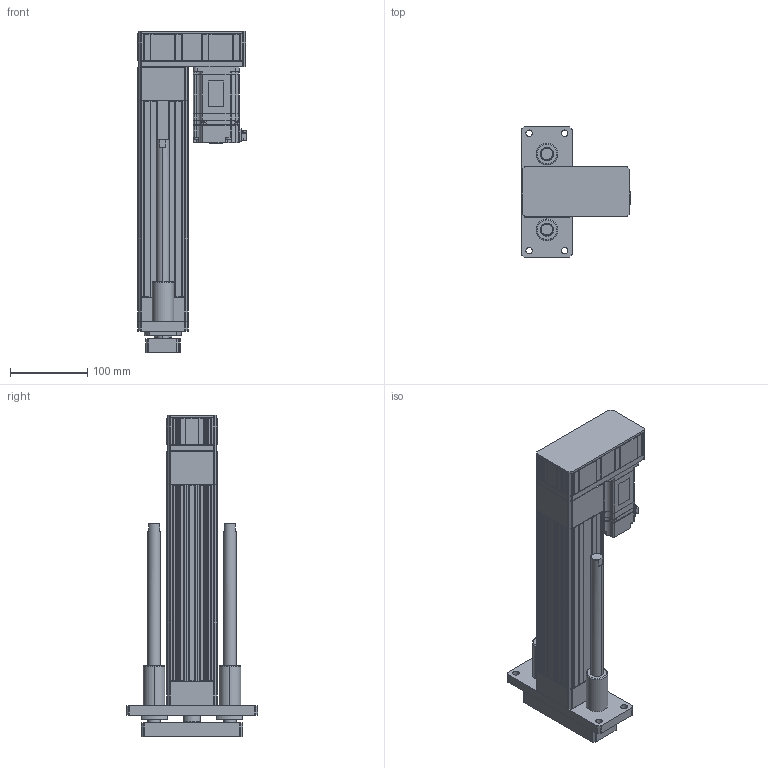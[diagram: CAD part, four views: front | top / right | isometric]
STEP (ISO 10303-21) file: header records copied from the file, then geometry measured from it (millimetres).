
FILE_DESCRIPTION (( 'STEP AP203' ), '1' );
FILE_NAME ('ANS065R-GP150-05(10)(20)-W40.STEP', '2019-03-01T08:51:40', ( 'user' ), ( '' ), 'SwSTEP 2.0', 'SolidWorks 2013', '' );
FILE_SCHEMA (( 'CONFIG_CONTROL_DESIGN' ));
Length unit declared in the file: millimetre
Products named in the file (4): ANS065 ROD ST150 G; sgmjv_04a_a21; ANS065R-GP150-05(10)(20)-W40; ANS065R GP150 VER2
Assembly tree (3 placements, depth 2):
  ANS065R-GP150-05(10)(20)-W40
    ANS065R GP150 VER2
    ANS065 ROD ST150 G
    sgmjv_04a_a21
Bounding box: 140.3 x 170 x 416 mm (x, y, z)
Volume: 1679953 mm3; surface area: 397990.1 mm2
Topology: 3 solids, 19 shells, 1720 faces, 4439 edges, 2846 vertices
Faces by surface type: plane 1030, cylinder 504, cone 182, torus 4
Entity records: 52345 total; most frequent: CARTESIAN_POINT 9317, DIRECTION 8915, ORIENTED_EDGE 8830, EDGE_CURVE 4415, LINE 3163, VECTOR 3163, AXIS2_PLACEMENT_3D 2876, VERTEX_POINT 2846
